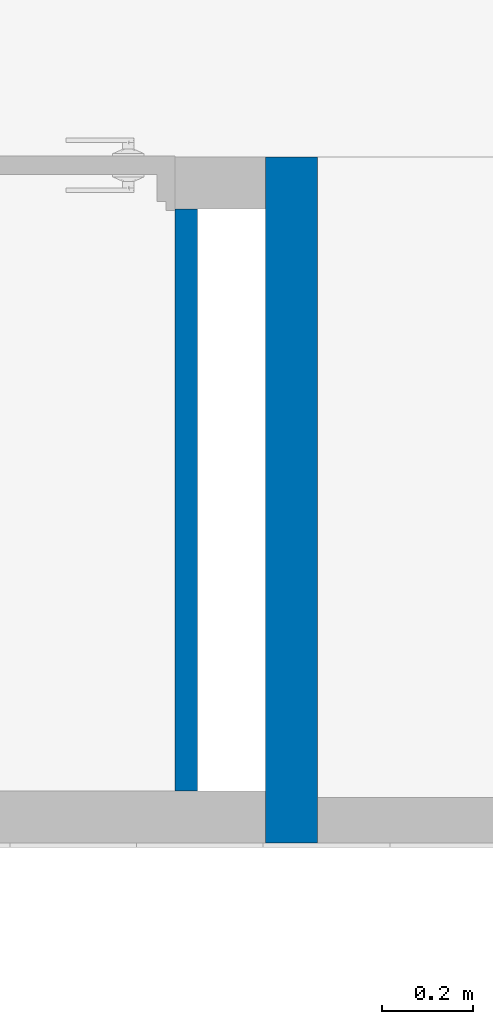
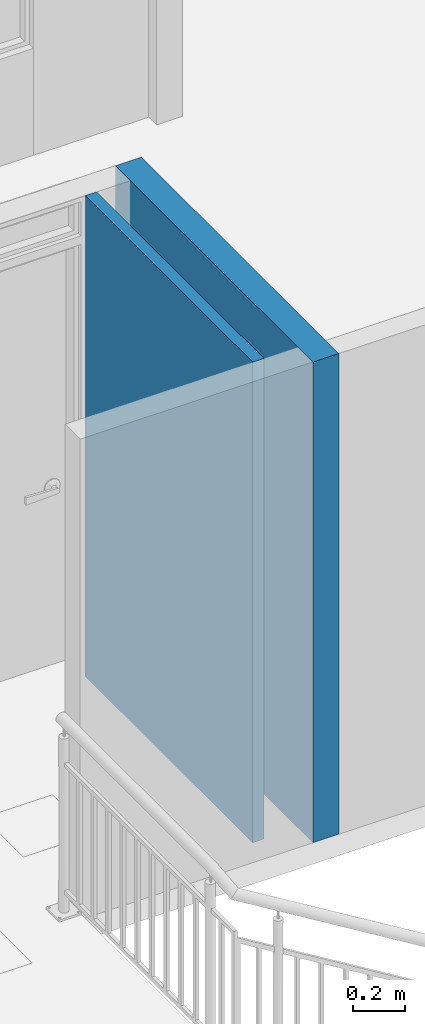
# One storey, part 21 of 47: 2 walls.
"""IFC4 building model written with IfcOpenShell, lengths in metres."""

import ifcopenshell
import ifcopenshell.guid

model = None  # the IFC model being written
_history = None  # IfcOwnerHistory: only IFC2X3 demands one
_inside = {}  # id of a spatial element -> (the spatial element, [elements in it])
_under = {}  # id of a project, library or spatial element -> (it, [spatial elements below it])
_declared = {}  # id of a project -> (the project, [libraries it declares])
_typed = {}  # id of a type object -> (the type object, [elements of that type])
_made_of = {}  # id of a material, layer set ... -> (it, [elements and type objects made of it])


def new_model(schema):
    """Start an empty IFC model of exactly this schema.

    Asked for "IFC4X3", IfcOpenShell would pick the latest addendum, in which some entities
    have other attributes; the version numbers below select the first issue.
    IFC2X3 requires an IfcOwnerHistory on every rooted entity: one is made here for all.
    """
    global model, _history
    if schema == "IFC4X3":
        model = ifcopenshell.file(schema_version=(4, 3, 0, 0))
    else:
        model = ifcopenshell.file(schema=schema)
    _inside.clear()
    _under.clear()
    _declared.clear()
    _typed.clear()
    _made_of.clear()
    _history = None
    if model.schema == "IFC2X3":
        org = make("IfcOrganization", Name="unknown")
        user = make(
            "IfcPersonAndOrganization",
            ThePerson=make("IfcPerson", FamilyName="unknown"),
            TheOrganization=org,
        )
        app = make(
            "IfcApplication",
            ApplicationDeveloper=org,
            Version="unknown",
            ApplicationFullName="unknown",
            ApplicationIdentifier="unknown",
        )
        _history = make(
            "IfcOwnerHistory",
            OwningUser=user,
            OwningApplication=app,
            ChangeAction="ADDED",
            CreationDate=0,
        )
    return model


def make(cls, **values):
    """One entity of the class cls with the attributes given. An attribute that is None is left unset."""
    return model.create_entity(
        cls, **{name: value for name, value in values.items() if value is not None}
    )


def entity(cls, *values):
    """Any entity or typed value of the class cls, its attributes in the order of the schema. None: left unset."""
    e = model.create_entity(cls)
    for i, value in enumerate(values):
        if value is not None:
            e[i] = value
    return e


def rooted(cls, **values):
    """An entity with a GlobalId (a new one), such as an element, a storey or a relation."""
    return make(cls, GlobalId=ifcopenshell.guid.new(), OwnerHistory=_history, **values)


def si_unit(unit_type, name, prefix=None):
    """IfcSIUnit, for example si_unit("LENGTHUNIT", "METRE", prefix="MILLI")."""
    return make("IfcSIUnit", UnitType=unit_type, Prefix=prefix, Name=name)


def converted_unit(unit_type, name, factor, base, dimensions=None, offset=None):
    """IfcConversionBasedUnit, such as the inch: factor (a typed value) times the base unit."""
    return make(
        "IfcConversionBasedUnit"
        if offset is None
        else "IfcConversionBasedUnitWithOffset",
        ConversionOffset=offset,
        Dimensions=None
        if dimensions is None
        else entity("IfcDimensionalExponents", *dimensions),
        UnitType=unit_type,
        Name=name,
        ConversionFactor=make(
            "IfcMeasureWithUnit", ValueComponent=factor, UnitComponent=base
        ),
    )


def derived_unit(unit_type, elements):
    """IfcDerivedUnit: a product of units, each with its exponent."""
    return make(
        "IfcDerivedUnit",
        Elements=[
            make("IfcDerivedUnitElement", Unit=unit, Exponent=power)
            for unit, power in elements
        ],
        UnitType=unit_type,
    )


def assignment(units):
    """IfcUnitAssignment: the units of a project."""
    return None if units is None else make("IfcUnitAssignment", Units=units)


def point(xyz):
    """IfcCartesianPoint."""
    return None if xyz is None else make("IfcCartesianPoint", Coordinates=xyz)


def direction(xyz):
    """IfcDirection."""
    return None if xyz is None else make("IfcDirection", DirectionRatios=xyz)


def frame(location, z_axis=None, x_axis=None):
    """IfcAxis2Placement3D, a coordinate frame: its origin and axes. An axis left out is left unset."""
    return make(
        "IfcAxis2Placement3D",
        Location=point(location),
        Axis=direction(z_axis),
        RefDirection=direction(x_axis),
    )


def origin():
    """The frame at (0, 0, 0) with its axes left unset."""
    return frame((0.0, 0.0, 0.0))


def place(relative_to, where):
    """IfcLocalPlacement: puts the frame where relative to a parent placement (None: the world)."""
    return make(
        "IfcLocalPlacement", PlacementRelTo=relative_to, RelativePlacement=where
    )


def context(
    kind, dimensions, precision=None, world=None, true_north=None, identifier=None
):
    """IfcGeometricRepresentationContext, for example the 3D "Model" context."""
    return make(
        "IfcGeometricRepresentationContext",
        ContextIdentifier=identifier,
        ContextType=kind,
        CoordinateSpaceDimension=dimensions,
        Precision=precision,
        WorldCoordinateSystem=world,
        TrueNorth=true_north,
    )


def subcontext(parent, identifier, kind, view, scale=None):
    """IfcGeometricRepresentationSubContext, for example "Body" below "Model"."""
    return make(
        "IfcGeometricRepresentationSubContext",
        ContextIdentifier=identifier,
        ContextType=kind,
        ParentContext=parent,
        TargetScale=scale,
        TargetView=view,
    )


def project(units=None, contexts=None):
    """IfcProject with its units and contexts."""
    return rooted(
        "IfcProject",
        Name="project",
        RepresentationContexts=contexts,
        UnitsInContext=assignment(units),
    )


def spatial(cls, under=None, at=None, **own):
    """A site, building, storey or space (cls), placed at a placement, below another one or the project."""
    s = rooted(cls, ObjectPlacement=at, **own)
    if under is not None:
        _under.setdefault(under.id(), (under, []))[1].append(s)
    return s


def point_list(points):
    """IfcCartesianPointList2D or 3D."""
    cls = (
        "IfcCartesianPointList2D" if len(points[0]) == 2 else "IfcCartesianPointList3D"
    )
    return make(cls, CoordList=points)


def indexed_curve(points, segments=None, self_intersect=None):
    """IfcIndexedPolyCurve: lines and arcs through numbered points (the first is 1)."""
    return make(
        "IfcIndexedPolyCurve",
        Points=point_list(points),
        Segments=segments,
        SelfIntersect=self_intersect,
    )


def outline(outer, holes=None, kind="AREA"):
    """IfcArbitraryClosedProfileDef: a profile drawn as a closed curve; with holes, ...WithVoids."""
    if holes is None:
        return make("IfcArbitraryClosedProfileDef", ProfileType=kind, OuterCurve=outer)
    return make(
        "IfcArbitraryProfileDefWithVoids",
        ProfileType=kind,
        OuterCurve=outer,
        InnerCurves=holes,
    )


def extrude(swept, where, along, depth):
    """IfcExtrudedAreaSolid: the profile swept, set in the frame where, extruded along a direction by depth."""
    return make(
        "IfcExtrudedAreaSolid",
        SweptArea=swept,
        Position=where,
        ExtrudedDirection=direction(along),
        Depth=depth,
    )


def shape(context_of_items, identifier, shape_type, items):
    """IfcShapeRepresentation: the items that make up one representation, for example the "Body"."""
    return make(
        "IfcShapeRepresentation",
        ContextOfItems=context_of_items,
        RepresentationIdentifier=identifier,
        RepresentationType=shape_type,
        Items=items,
    )


def material(Name=None, Category=None):
    """IfcMaterial."""
    return make("IfcMaterial", Name=Name, Category=Category)


def made_of(thing, what):
    """Note that an element or type object is made of a material, layer set ...; save() writes the relation."""
    if what is not None:
        _made_of.setdefault(what.id(), (what, []))[1].append(thing)
    return thing


def type_object(cls, material=None, **own):
    """A type object (cls), such as IfcWallType, which elements share."""
    return made_of(rooted(cls, **own), material)


def element(
    cls,
    number,
    at=None,
    inside=None,
    cuts=None,
    type_object=None,
    material=None,
    context=None,
    identifier="Body",
    shape_type=None,
    held_by="IfcProductDefinitionShape",
    body=None,
    shapes=None,
    **own,
):
    """One element of the class cls, such as IfcWall. Its Tag is "e" and its number.

    at: its placement. inside: the storey or other place that contains it. cuts: it is an
    opening in that element (IfcRelVoidsElement). A single representation is given by context,
    identifier, shape_type and body (its items); several are given by shapes. held_by: the class
    of the entity that holds the representations. save() writes the other relations.
    """
    e = rooted(cls, Tag="e%d" % number, ObjectPlacement=at, **own)
    if body is not None:
        shapes = [shape(context, identifier, shape_type, body)]
    if shapes is not None:
        e.Representation = make(held_by, Representations=shapes)
    if inside is not None:
        _inside.setdefault(inside.id(), (inside, []))[1].append(e)
    if cuts is not None:
        rooted(
            "IfcRelVoidsElement", RelatingBuildingElement=cuts, RelatedOpeningElement=e
        )
    if type_object is not None:
        _typed.setdefault(type_object.id(), (type_object, []))[1].append(e)
    return made_of(e, material)


def aggregate(whole, parts):
    """IfcRelAggregates: a whole, such as a stair, and the parts it consists of."""
    return rooted("IfcRelAggregates", RelatingObject=whole, RelatedObjects=parts)


def save(model, path):
    """Write the relations noted so far, then the file.

    IfcRelAggregates (storeys below a building ...), IfcRelContainedInSpatialStructure (elements
    in a storey), IfcRelDefinesByType, IfcRelAssociatesMaterial and IfcRelDeclares: one each for
    every whole, place, type object, material and project.
    """
    for whole, parts in _under.values():
        aggregate(whole, parts)
    for where, things in _inside.values():
        rooted(
            "IfcRelContainedInSpatialStructure",
            RelatedElements=things,
            RelatingStructure=where,
        )
    for kind, things in _typed.values():
        rooted("IfcRelDefinesByType", RelatedObjects=things, RelatingType=kind)
    for what, things in _made_of.values():
        rooted("IfcRelAssociatesMaterial", RelatedObjects=things, RelatingMaterial=what)
    for by, libraries in _declared.values():
        rooted("IfcRelDeclares", RelatingContext=by, RelatedDefinitions=libraries)
    model.write(path)


model = new_model("IFC4")

# Units and contexts
model_context = context("Model", 3, precision=1e-05, world=origin(), true_north=direction((6.123031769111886e-17, 1.0)))
body_context = subcontext(model_context, "Body", "Model", "MODEL_VIEW")
ifc_project = project(units=[si_unit("LENGTHUNIT", "METRE"), si_unit("AREAUNIT", "SQUARE_METRE"), si_unit("VOLUMEUNIT", "CUBIC_METRE"), converted_unit("PLANEANGLEUNIT", "DEGREE", entity("IfcRatioMeasure", 0.017453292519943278), si_unit("PLANEANGLEUNIT", "RADIAN"), dimensions=[0, 0, 0, 0, 0, 0, 0]), si_unit("MASSUNIT", "GRAM", prefix="KILO"), derived_unit("MASSDENSITYUNIT", [(si_unit("MASSUNIT", "GRAM", prefix="KILO"), 1), (si_unit("LENGTHUNIT", "METRE"), -3)]), derived_unit("IONCONCENTRATIONUNIT", [(si_unit("MASSUNIT", "GRAM", prefix="KILO"), 1), (si_unit("LENGTHUNIT", "METRE"), -3)]), derived_unit("MOMENTOFINERTIAUNIT", [(si_unit("LENGTHUNIT", "METRE"), 4)]), si_unit("TIMEUNIT", "SECOND"), si_unit("FREQUENCYUNIT", "HERTZ"), si_unit("THERMODYNAMICTEMPERATUREUNIT", "DEGREE_CELSIUS"), derived_unit("THERMALTRANSMITTANCEUNIT", [(si_unit("MASSUNIT", "GRAM", prefix="KILO"), 1), (si_unit("THERMODYNAMICTEMPERATUREUNIT", "KELVIN"), -1), (si_unit("TIMEUNIT", "SECOND"), -3)]), derived_unit("THERMALCONDUCTANCEUNIT", [(si_unit("MASSUNIT", "GRAM", prefix="KILO"), 1), (si_unit("THERMODYNAMICTEMPERATUREUNIT", "KELVIN"), -1), (si_unit("TIMEUNIT", "SECOND"), -3), (si_unit("LENGTHUNIT", "METRE"), 1)]), derived_unit("VOLUMETRICFLOWRATEUNIT", [(si_unit("LENGTHUNIT", "METRE"), 3), (si_unit("TIMEUNIT", "SECOND"), -1)]), derived_unit("MASSFLOWRATEUNIT", [(si_unit("MASSUNIT", "GRAM", prefix="KILO"), 1), (si_unit("TIMEUNIT", "SECOND"), -1)]), derived_unit("ROTATIONALFREQUENCYUNIT", [(si_unit("TIMEUNIT", "SECOND"), -1)]), si_unit("ELECTRICCURRENTUNIT", "AMPERE"), si_unit("ELECTRICVOLTAGEUNIT", "VOLT"), si_unit("POWERUNIT", "WATT"), si_unit("FORCEUNIT", "NEWTON", prefix="KILO"), si_unit("ILLUMINANCEUNIT", "LUX"), si_unit("LUMINOUSFLUXUNIT", "LUMEN"), si_unit("LUMINOUSINTENSITYUNIT", "CANDELA"), derived_unit("USERDEFINED", [(si_unit("MASSUNIT", "GRAM", prefix="KILO"), -1), (si_unit("LENGTHUNIT", "METRE"), -2), (si_unit("TIMEUNIT", "SECOND"), 3), (si_unit("LUMINOUSFLUXUNIT", "LUMEN"), 1)]), derived_unit("USERDEFINED", [(si_unit("MASSUNIT", "GRAM", prefix="KILO"), 1), (si_unit("TIMEUNIT", "SECOND"), -3), (si_unit("LENGTHUNIT", "METRE"), 3), (si_unit("ELECTRICCURRENTUNIT", "AMPERE"), -2)]), derived_unit("SOUNDPOWERUNIT", [(si_unit("MASSUNIT", "GRAM", prefix="KILO"), 1), (si_unit("TIMEUNIT", "SECOND"), -3), (si_unit("LENGTHUNIT", "METRE"), 2)]), derived_unit("SOUNDPRESSUREUNIT", [(si_unit("MASSUNIT", "GRAM", prefix="KILO"), 1), (si_unit("LENGTHUNIT", "METRE"), -1), (si_unit("TIMEUNIT", "SECOND"), -2)]), derived_unit("LINEARVELOCITYUNIT", [(si_unit("LENGTHUNIT", "METRE"), 1), (si_unit("TIMEUNIT", "SECOND"), -1)]), si_unit("PRESSUREUNIT", "PASCAL"), derived_unit("USERDEFINED", [(si_unit("MASSUNIT", "GRAM", prefix="KILO"), 1), (si_unit("LENGTHUNIT", "METRE"), -2), (si_unit("TIMEUNIT", "SECOND"), -2)]), derived_unit("LINEARFORCEUNIT", [(si_unit("MASSUNIT", "GRAM", prefix="KILO"), 1), (si_unit("TIMEUNIT", "SECOND"), -2)]), derived_unit("PLANARFORCEUNIT", [(si_unit("MASSUNIT", "GRAM", prefix="KILO"), 1), (si_unit("LENGTHUNIT", "METRE"), -1), (si_unit("TIMEUNIT", "SECOND"), -2)]), derived_unit("SPECIFICHEATCAPACITYUNIT", [(si_unit("THERMODYNAMICTEMPERATUREUNIT", "KELVIN"), -1), (si_unit("LENGTHUNIT", "METRE"), 2), (si_unit("TIMEUNIT", "SECOND"), -2)]), derived_unit("HEATINGVALUEUNIT", [(si_unit("LENGTHUNIT", "METRE"), 2), (si_unit("TIMEUNIT", "SECOND"), -2)]), derived_unit("VAPORPERMEABILITYUNIT", [(si_unit("LENGTHUNIT", "METRE"), -1), (si_unit("TIMEUNIT", "SECOND"), 1)]), derived_unit("DYNAMICVISCOSITYUNIT", [(si_unit("MASSUNIT", "GRAM", prefix="KILO"), 1), (si_unit("TIMEUNIT", "SECOND"), -1), (si_unit("LENGTHUNIT", "METRE"), -1)]), derived_unit("THERMALEXPANSIONCOEFFICIENTUNIT", [(si_unit("THERMODYNAMICTEMPERATUREUNIT", "KELVIN"), -1)]), derived_unit("MODULUSOFELASTICITYUNIT", [(si_unit("MASSUNIT", "GRAM", prefix="KILO"), 1), (si_unit("LENGTHUNIT", "METRE"), -1), (si_unit("TIMEUNIT", "SECOND"), -2)]), derived_unit("ISOTHERMALMOISTURECAPACITYUNIT", [(si_unit("LENGTHUNIT", "METRE"), 3), (si_unit("MASSUNIT", "GRAM", prefix="KILO"), -1)]), derived_unit("MOISTUREDIFFUSIVITYUNIT", [(si_unit("TIMEUNIT", "SECOND"), -1), (si_unit("LENGTHUNIT", "METRE"), 2)])], contexts=[model_context])

# Site, building, storey
site_placement = place(None, origin())
site = spatial("IfcSite", under=ifc_project, at=site_placement, Name="Default", CompositionType="ELEMENT")
building_placement = place(site_placement, origin())
building = spatial("IfcBuilding", under=site, at=building_placement, CompositionType="ELEMENT")
storey_placement = place(building_placement, frame((0.0, 0.0, 11.750000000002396)))
storey = spatial("IfcBuildingStorey", under=building, at=storey_placement, Name="Nivel 6", CompositionType="ELEMENT", Elevation=11.750000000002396)

# Walls
ifc_material_1 = material(Name="Ladrillo claro (Aire)", Category="Materials")
wall_type_1 = type_object("IfcWallType", Name="Basic Wall:B2010 - 0.115m - Muro interior en mampostería - Ladrillo", PredefinedType="STANDARD")
wall_1_placement = place(storey_placement, frame((10.6399999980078, -5.225000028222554, 0.0), z_axis=(0.0, 0.0, 1.0), x_axis=(0.0, 1.0, 0.0)))
element("IfcWall", 1, at=wall_1_placement, inside=storey, type_object=wall_type_1, material=ifc_material_1, Name="Basic Wall:B2010 - 0.115m - Muro interior en mampostería - Ladrillo", ObjectType="Basic Wall:B2010 - 0.115m - Muro interior en mampostería - Ladrillo", PredefinedType="NOTDEFINED", context=body_context, shape_type="SweptSolid", body=[
    extrude(outline(indexed_curve([(1.5150000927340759, 0.057500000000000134), (-9.033989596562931e-17, 0.057499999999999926), (9.033989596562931e-17, -0.057499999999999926), (1.5150000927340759, -0.05749999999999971), (1.5150000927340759, 0.057500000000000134)], self_intersect=False)), origin(), (0.0, 0.0, 1.0), 2.2499999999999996),
])
ifc_material_2 = material(Name="0 muro divisorio", Category="Materials")
wall_type_2 = type_object("IfcWallType", Name="Basic Wall:B2010 - 0.05m - MI No estructural- Concreto", PredefinedType="STANDARD")
wall_2_placement = place(storey_placement, frame((10.407500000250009, -5.110000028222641, 0.0), z_axis=(0.0, 0.0, 1.0), x_axis=(0.0, 1.0, 0.0)))
element("IfcWall", 2, at=wall_2_placement, inside=storey, type_object=wall_type_2, material=ifc_material_2, Name="Basic Wall:B2010 - 0.05m - MI No estructural- Concreto", ObjectType="Basic Wall:B2010 - 0.05m - MI No estructural- Concreto", PredefinedType="NOTDEFINED", context=body_context, shape_type="SweptSolid", body=[
    extrude(outline(indexed_curve([(1.2849999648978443, 0.025000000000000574), (-3.7405361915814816e-17, 0.025000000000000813), (3.7405361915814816e-17, -0.025000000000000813), (1.2849999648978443, -0.025000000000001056), (1.2849999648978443, 0.025000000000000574)], self_intersect=False)), origin(), (0.0, 0.0, 1.0), 2.2499999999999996),
])

save(model, "model.ifc")
